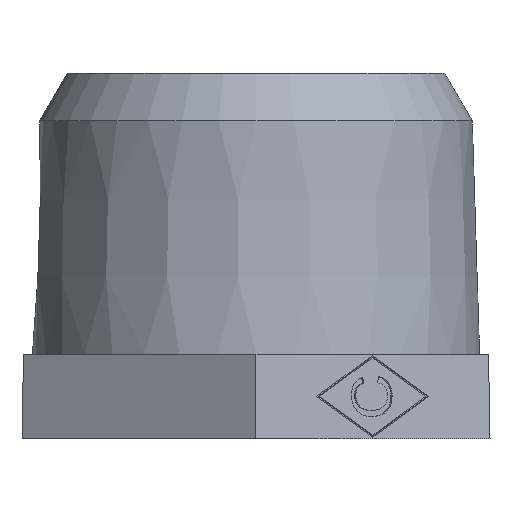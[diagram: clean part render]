
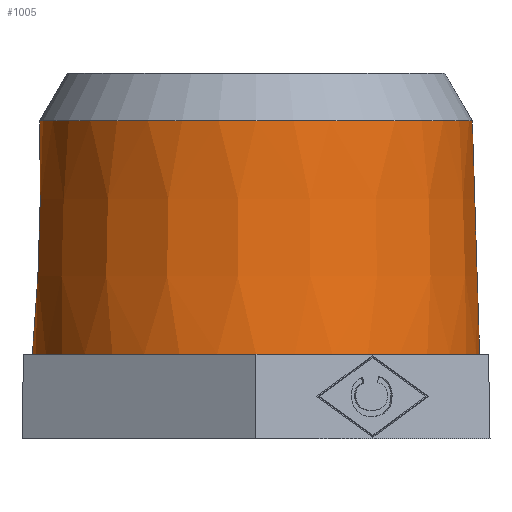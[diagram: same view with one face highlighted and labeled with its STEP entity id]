
A CAD part, front view. The second image highlights one B-rep face of the part: STEP entity #1005.
In plain terms, the highlighted conical face has half-angle 1.8 degrees and reference radius 17.2 mm.
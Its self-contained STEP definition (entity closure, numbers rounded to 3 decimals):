
#954=CARTESIAN_POINT('',(16.636,0.,24.436));
#955=VERTEX_POINT('',#954);
#956=CARTESIAN_POINT('',(0.,0.,24.436));
#957=DIRECTION('',(0.0,0.0,1.0));
#958=DIRECTION('',(-1.0,0.0,0.0));
#959=AXIS2_PLACEMENT_3D('',#956,#957,#958);
#960=CIRCLE('',#959,16.636);
#961=EDGE_CURVE('',#955,#955,#960,.T.);
#986=CARTESIAN_POINT('',(0.,0.,6.5));
#987=DIRECTION('',(0.,0.,-1.0));
#988=DIRECTION('',(-1.0,0.0,0.0));
#989=AXIS2_PLACEMENT_3D('',#986,#987,#988);
#990=CONICAL_SURFACE('',#989,17.2,1.8);
#991=CARTESIAN_POINT('',(17.2,0.,6.5));
#992=VERTEX_POINT('',#991);
#993=CARTESIAN_POINT('',(0.,0.,6.5));
#994=DIRECTION('',(0.0,0.0,-1.0));
#995=DIRECTION('',(-1.0,0.0,0.0));
#996=AXIS2_PLACEMENT_3D('',#993,#994,#995);
#997=CIRCLE('',#996,17.2);
#998=EDGE_CURVE('',#992,#992,#997,.T.);
#999=ORIENTED_EDGE('',*,*,#998,.F.);
#1000=EDGE_LOOP('',(#999));
#1001=FACE_OUTER_BOUND('',#1000,.T.);
#1002=ORIENTED_EDGE('',*,*,#961,.F.);
#1003=EDGE_LOOP('',(#1002));
#1004=FACE_BOUND('',#1003,.T.);
#1005=ADVANCED_FACE('',(#1001,#1004),#990,.T.);
